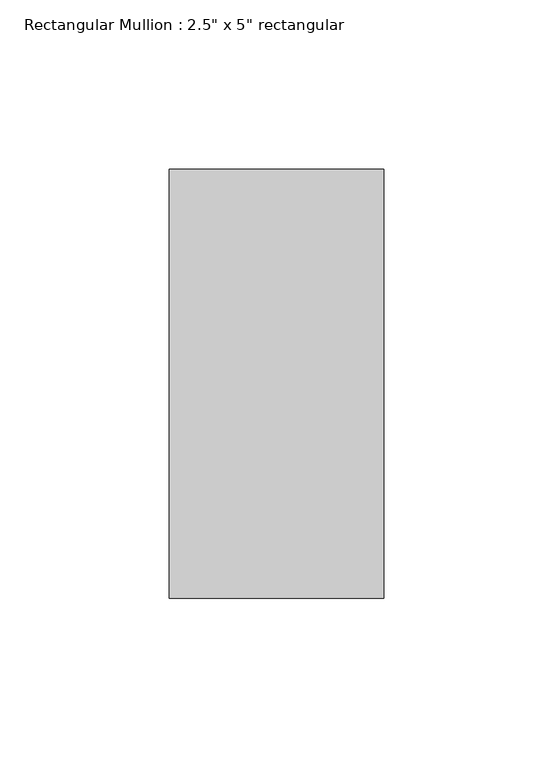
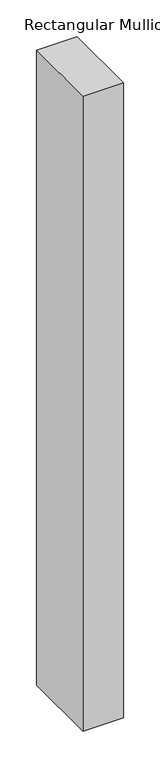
"""IFC4 building model written with IfcOpenShell, lengths in millimetres: member geometry."""

from ifc_helpers import new_model, si_unit, frame, origin, place, context, project, spatial, polyline, outline, extrude, source, transform, mapped, element, save


def member_06e47158(model_context):
    return source(origin(), model_context, "Body", "SweptSolid", [
        extrude(outline(polyline([(0.0, 63.5), (0.0, -63.5), (-63.5, -63.5), (-63.5, 63.5), (0.0, 63.5)])), frame((0.0, 0.0, -1056.6400002), z_axis=(0.0, 0.0, 1.0), x_axis=(1.0, 0.0, 0.0)), (0.0, 0.0, 1.0), 1056.6400002),
    ])


if __name__ == "__main__":
    model = new_model("IFC4")
    model_context = context("Model", 3, world=origin())
    ifc_project = project(units=[si_unit("LENGTHUNIT", "METRE", prefix="MILLI")], contexts=[model_context])
    site = spatial("IfcSite", under=ifc_project)
    building = spatial("IfcBuilding", under=site)
    placement = place(None, origin())
    member_shape = member_06e47158(model_context)
    element("IfcMember", 1, ObjectType="Rectangular Mullion : 2.5\" x 5\" rectangular", at=placement, inside=building, context=model_context, shape_type="MappedRepresentation", body=[
        mapped(member_shape, transform((0.0, 0.0, 0.0), x_axis=(1.0, 0.0, 0.0), y_axis=(0.0, 1.0, 0.0), z_axis=(0.0, 0.0, 1.0))),
    ])
    save(model, "model.ifc")
